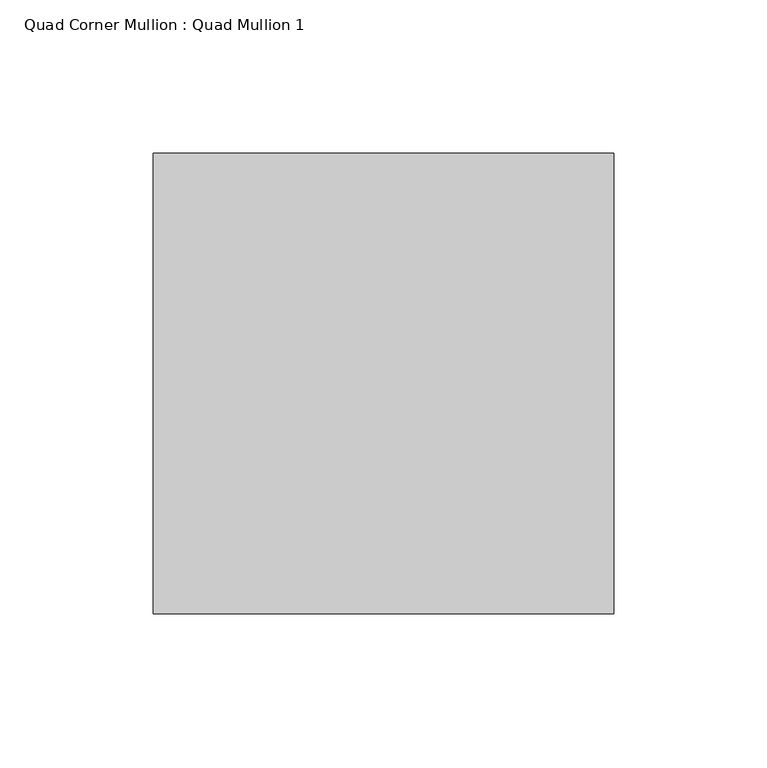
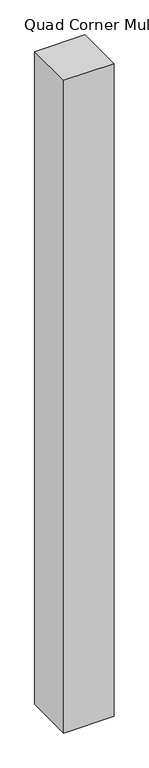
"""IFC4 building model written with IfcOpenShell, lengths in millimetres: member geometry, Quad Corner Mullion : Quad Mullion 1."""

from ifc_helpers import new_model, si_unit, frame, origin, place, context, project, spatial, polyline, outline, extrude, source, transform, mapped, element, save


def quad_corner_mullion_quad_mullion_1_36401268(model_context):
    return source(origin(), model_context, "Body", "SweptSolid", [
        extrude(outline(polyline([(75.0, -75.0), (-75.0, -75.0), (-75.0, 75.0), (75.0, 75.0), (75.0, -75.0)])), frame((0.0, 0.0, -2058.0), z_axis=(0.0, 0.0, 1.0), x_axis=(1.0, 0.0, 0.0)), (0.0, 0.0, 1.0), 2058.0),
    ])


if __name__ == "__main__":
    model = new_model("IFC4")
    model_context = context("Model", 3, world=origin())
    ifc_project = project(units=[si_unit("LENGTHUNIT", "METRE", prefix="MILLI")], contexts=[model_context])
    site = spatial("IfcSite", under=ifc_project)
    building = spatial("IfcBuilding", under=site)
    placement = place(None, origin())
    quad_corner_mullion_quad_mullion_1_shape = quad_corner_mullion_quad_mullion_1_36401268(model_context)
    element("IfcMember", 1, ObjectType="Quad Corner Mullion : Quad Mullion 1", at=placement, inside=building, context=model_context, shape_type="MappedRepresentation", body=[
        mapped(quad_corner_mullion_quad_mullion_1_shape, transform((0.0, 0.0, 0.0), x_axis=(1.0, 0.0, 0.0), y_axis=(0.0, 1.0, 0.0), z_axis=(0.0, 0.0, 1.0))),
    ])
    save(model, "model.ifc")
